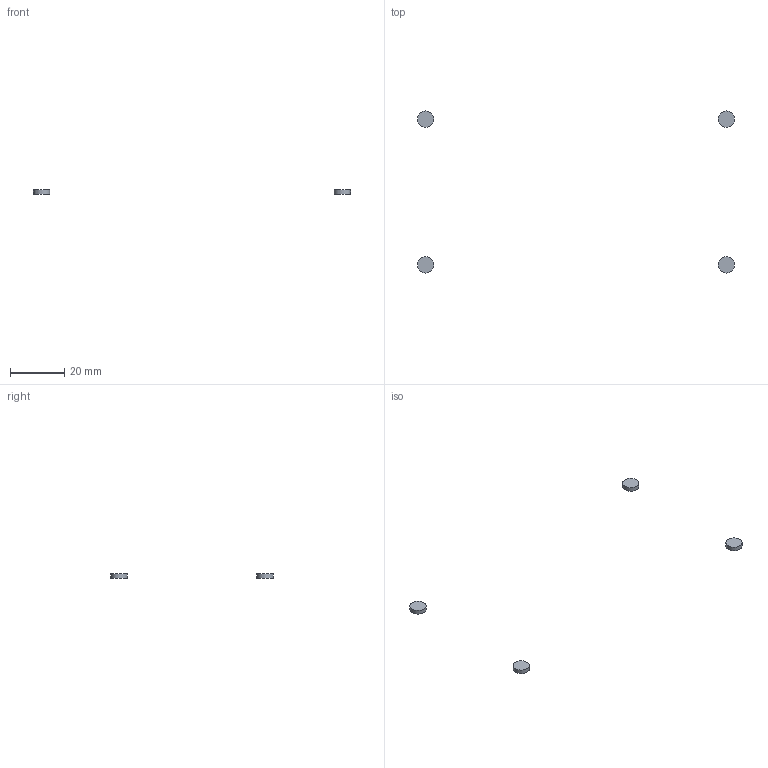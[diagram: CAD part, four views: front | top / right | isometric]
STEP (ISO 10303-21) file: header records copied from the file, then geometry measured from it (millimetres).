
FILE_DESCRIPTION(('Open CASCADE Model'),'2;1');
FILE_NAME('Open CASCADE Shape Model','2026-09-29T12:48:04',('Author'),( 'Open CASCADE'),'Open CASCADE STEP processor 7.9','Open CASCADE 7.9' ,'Unknown');
FILE_SCHEMA(('AUTOMOTIVE_DESIGN { 1 0 10303 214 1 1 1 1 }'));
Length unit declared in the file: millimetre
Products named in the file (5): Open CASCADE STEP translator 7.9 32; Open CASCADE STEP translator 7.9 32.1; Open CASCADE STEP translator 7.9 32.2; Open CASCADE STEP translator 7.9 32.3; Open CASCADE STEP translator 7.9 32.4
Assembly tree (4 placements, depth 2):
  Open CASCADE STEP translator 7.9 32
    Open CASCADE STEP translator 7.9 32.1
    Open CASCADE STEP translator 7.9 32.2
    Open CASCADE STEP translator 7.9 32.3
    Open CASCADE STEP translator 7.9 32.4
Bounding box: 117.35 x 60 x 1.6 mm (x, y, z)
Volume: 181 mm3; surface area: 346.8 mm2
Topology: 4 solids, 4 shells, 12 faces, 12 edges, 8 vertices
Faces by surface type: plane 8, cylinder 4
Full cylindrical faces by diameter (mm): 6 x4
Entity records: 456 total; most frequent: DIRECTION 78, CARTESIAN_POINT 61, AXIS2_PLACEMENT_3D 25, ORIENTED_EDGE 24, PCURVE 24, DEFINITIONAL_REPRESENTATION 24, LINE 20, VECTOR 20
